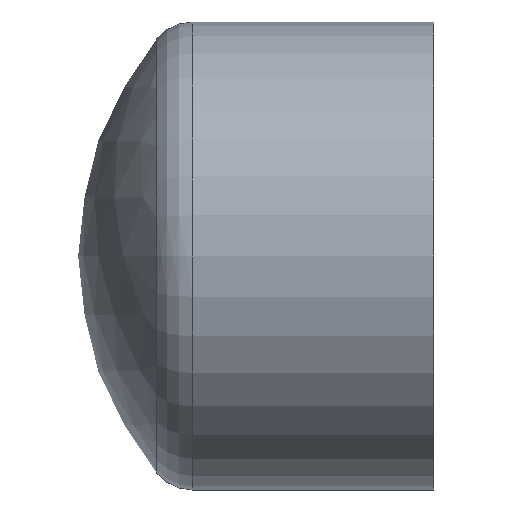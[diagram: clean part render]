
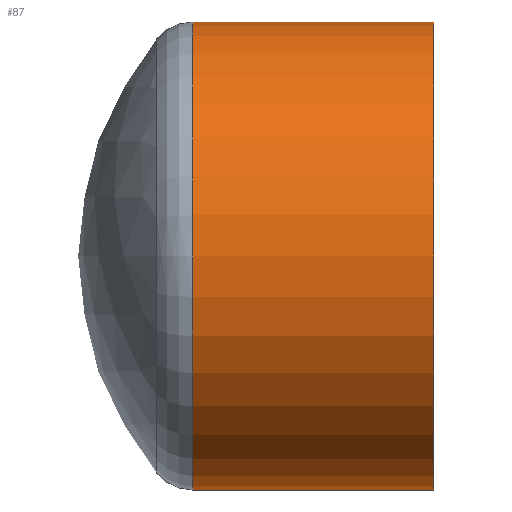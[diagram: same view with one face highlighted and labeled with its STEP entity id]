
A CAD part, left-side view. The second image highlights one B-rep face of the part: STEP entity #87.
In plain terms, the highlighted cylindrical face has radius 37.5 mm (diameter 75 mm), a full revolution.
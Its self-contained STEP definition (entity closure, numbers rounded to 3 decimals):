
#20=CYLINDRICAL_SURFACE('',#98,37.5);
#23=FACE_BOUND('',#37,.T.);
#28=FACE_OUTER_BOUND('',#36,.T.);
#36=EDGE_LOOP('',(#71));
#37=EDGE_LOOP('',(#72));
#46=CIRCLE('',#96,37.5);
#48=CIRCLE('',#99,37.5);
#53=VERTEX_POINT('',#138);
#55=VERTEX_POINT('',#143);
#61=EDGE_CURVE('',#53,#53,#46,.T.);
#63=EDGE_CURVE('',#55,#55,#48,.T.);
#71=ORIENTED_EDGE('',*,*,#63,.T.);
#72=ORIENTED_EDGE('',*,*,#61,.F.);
#87=ADVANCED_FACE('',(#28,#23),#20,.T.);
#96=AXIS2_PLACEMENT_3D('',#139,#112,#113);
#98=AXIS2_PLACEMENT_3D('',#142,#116,#117);
#99=AXIS2_PLACEMENT_3D('',#144,#118,#119);
#112=DIRECTION('center_axis',(0.,1.,0.));
#113=DIRECTION('ref_axis',(1.,0.,0.));
#116=DIRECTION('center_axis',(0.,1.,0.));
#117=DIRECTION('ref_axis',(-1.,0.,0.));
#118=DIRECTION('center_axis',(0.,1.,0.));
#119=DIRECTION('ref_axis',(1.,0.,0.));
#138=CARTESIAN_POINT('',(-37.5,38.643,0.));
#139=CARTESIAN_POINT('Origin',(0.,38.643,0.));
#142=CARTESIAN_POINT('Origin',(0.,21.,0.));
#143=CARTESIAN_POINT('',(-37.5,0.,0.));
#144=CARTESIAN_POINT('Origin',(0.,0.,0.));
